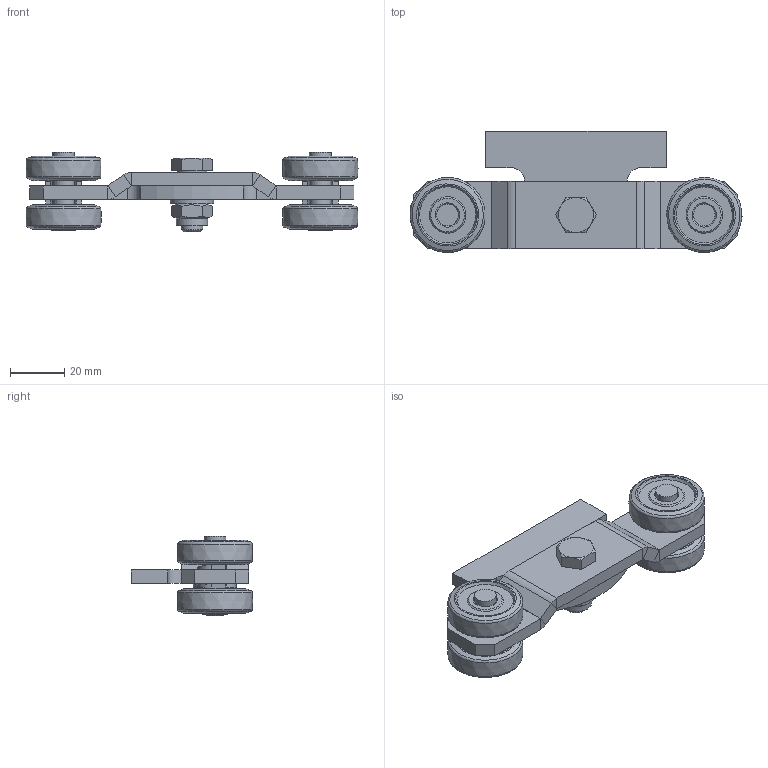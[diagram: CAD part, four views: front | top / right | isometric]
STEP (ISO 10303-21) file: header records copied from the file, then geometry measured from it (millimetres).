
FILE_DESCRIPTION(/* description */ ('Brennteil'),/* implementation_level */ '2;1');
FILE_NAME(/* name */ 'Q:\sge-ma\Produktmanagement-STB\STB\Workspace\TraceParts\Doppelrolle mit Anschweißpendel\010336862.stp',/* time_stamp */ '2018-02-27T12:43:27+01:00',/* author */ ('avschreier'),/* organization */ (''),/* preprocessor_version */ 'ST-DEVELOPER v16.1',/* originating_system */ 'Autodesk Inventor 2016',/* authorisation */ '');
FILE_SCHEMA (('CONFIG_CONTROL_DESIGN'));
Length unit declared in the file: millimetre
Products named in the file (9): 000302048; 337000120; 336290010; 000303235; 000304011; DIN_EN_ISO_7040-M8_en; DIN_EN_ISO_7090-8,4_en; DIN_EN_ISO_4017-M8x22_en; 010336862
Assembly tree (15 placements, depth 2):
  010336862
    000302048
    337000120
    336290010  x4
    000303235  x4
    000304011  x2
    DIN_EN_ISO_7040-M8_en
    DIN_EN_ISO_7090-8,4_en
    DIN_EN_ISO_4017-M8x22_en
Bounding box: 122.92 x 44.98 x 29.5 mm (x, y, z)
Volume: 47277.8 mm3; surface area: 25542.1 mm2
Topology: 15 solids, 15 shells, 341 faces, 785 edges, 494 vertices
Faces by surface type: plane 209, cylinder 48, cone 46, bspline 28, torus 10
Full cylindrical faces by diameter (mm): 6.647 x1, 7.323 x1, 8 x7, 8.1 x1, 8.3 x1, 8.4 x1, 10 x2, 11.4 x1, 11.6 x1, 16 x1
Entity records: 5382 total; most frequent: CARTESIAN_POINT 1591, DIRECTION 778, ORIENTED_EDGE 682, EDGE_CURVE 341, AXIS2_PLACEMENT_3D 291, VERTEX_POINT 228, EDGE_LOOP 217, LINE 196
